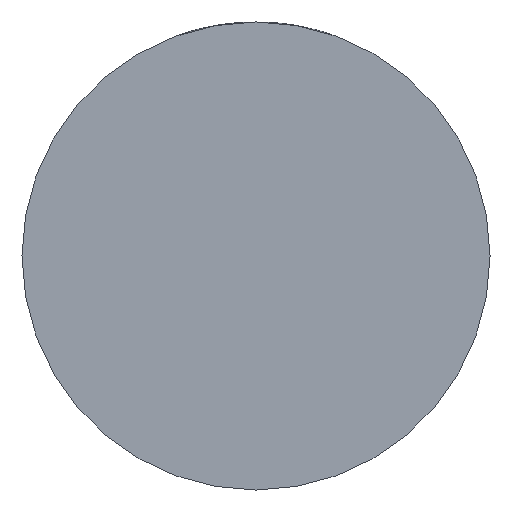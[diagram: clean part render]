
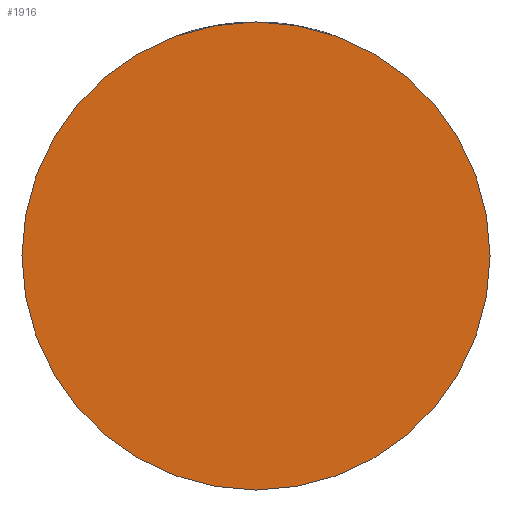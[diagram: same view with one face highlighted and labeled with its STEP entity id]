
A CAD part, front view. The second image highlights one B-rep face of the part: STEP entity #1916.
In plain terms, the highlighted planar face has unit normal (0, -1, 0).
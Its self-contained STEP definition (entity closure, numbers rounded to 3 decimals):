
#521 = EDGE_LOOP ( 'NONE', ( #4013, #3953 ) ) ;
#525 = VERTEX_POINT ( 'NONE', #4140 ) ;
#987 = AXIS2_PLACEMENT_3D ( 'NONE', #1106, #2457, #3426 ) ;
#1106 = CARTESIAN_POINT ( 'NONE',  ( 0., -22., 0. ) ) ;
#1401 = EDGE_CURVE ( 'NONE', #525, #1686, #1404, .T. ) ;
#1404 = CIRCLE ( 'NONE', #4004, 26.5 ) ;
#1686 = VERTEX_POINT ( 'NONE', #3366 ) ;
#1916 = ADVANCED_FACE ( 'NONE', ( #3672 ), #1975, .T. ) ;
#1975 = PLANE ( 'NONE',  #2107 ) ;
#2107 = AXIS2_PLACEMENT_3D ( 'NONE', #3642, #4331, #3267 ) ;
#2195 = DIRECTION ( 'NONE',  ( 1., 0., 0. ) ) ;
#2457 = DIRECTION ( 'NONE',  ( 0., -1., 0. ) ) ;
#2677 = CIRCLE ( 'NONE', #987, 26.5 ) ;
#3075 = EDGE_CURVE ( 'NONE', #1686, #525, #2677, .T. ) ;
#3267 = DIRECTION ( 'NONE',  ( 1., 0., 0. ) ) ;
#3366 = CARTESIAN_POINT ( 'NONE',  ( -26.5, -22., 0. ) ) ;
#3426 = DIRECTION ( 'NONE',  ( 1., 0., 0. ) ) ;
#3612 = DIRECTION ( 'NONE',  ( 0., -1., 0. ) ) ;
#3642 = CARTESIAN_POINT ( 'NONE',  ( 0., -22., 0. ) ) ;
#3672 = FACE_OUTER_BOUND ( 'NONE', #521, .T. ) ;
#3682 = CARTESIAN_POINT ( 'NONE',  ( 0., -22., 0. ) ) ;
#3953 = ORIENTED_EDGE ( 'NONE', *, *, #1401, .T. ) ;
#4004 = AXIS2_PLACEMENT_3D ( 'NONE', #3682, #3612, #2195 ) ;
#4013 = ORIENTED_EDGE ( 'NONE', *, *, #3075, .T. ) ;
#4140 = CARTESIAN_POINT ( 'NONE',  ( 26.5, -22., 0. ) ) ;
#4331 = DIRECTION ( 'NONE',  ( 0., -1., 0. ) ) ;
